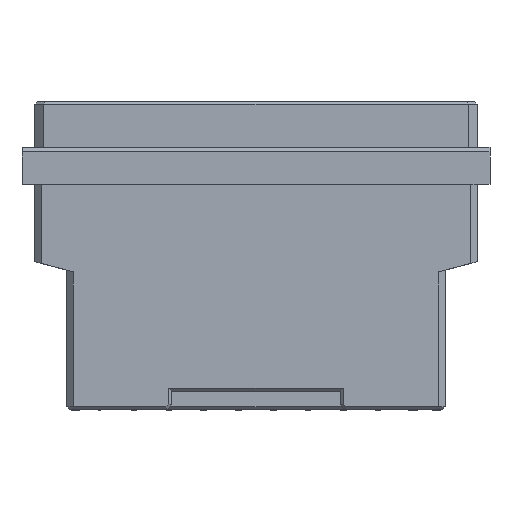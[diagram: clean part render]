
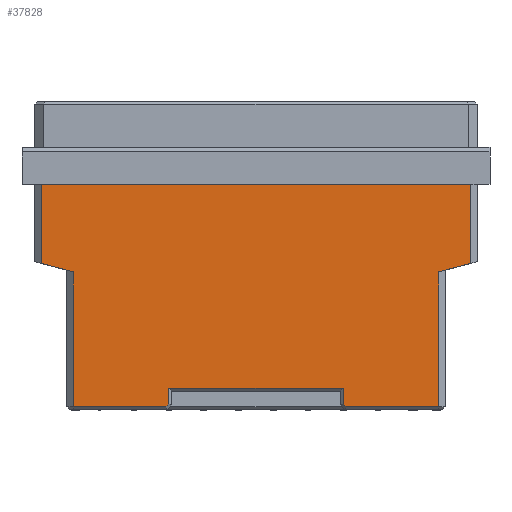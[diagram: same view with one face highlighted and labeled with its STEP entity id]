
A CAD part, front view. The second image highlights one B-rep face of the part: STEP entity #37828.
In plain terms, the highlighted planar face has unit normal (0, -1, 0).
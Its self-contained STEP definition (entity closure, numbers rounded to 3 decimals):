
#1139 = VECTOR ( 'NONE', #53690, 1000. ) ;
#1165 = VERTEX_POINT ( 'NONE', #4199 ) ;
#4199 = CARTESIAN_POINT ( 'NONE',  ( 19.945, -7.215, -33.3 ) ) ;
#4772 = LINE ( 'NONE', #33286, #5613 ) ;
#5613 = VECTOR ( 'NONE', #43406, 1000. ) ;
#6460 = EDGE_CURVE ( 'NONE', #44655, #52440, #4772, .T. ) ;
#6698 = EDGE_CURVE ( 'NONE', #45348, #30532, #43522, .T. ) ;
#7568 = EDGE_CURVE ( 'NONE', #62938, #44591, #33779, .T. ) ;
#7988 = ORIENTED_EDGE ( 'NONE', *, *, #58318, .T. ) ;
#8179 = DIRECTION ( 'NONE',  ( -1., 0., 0. ) ) ;
#8713 = CARTESIAN_POINT ( 'NONE',  ( 23.445, -7.215, -17.65 ) ) ;
#9667 = DIRECTION ( 'NONE',  ( 0., 0., 1. ) ) ;
#10167 = DIRECTION ( 'NONE',  ( 0., 0., 1. ) ) ;
#11330 = VERTEX_POINT ( 'NONE', #62435 ) ;
#11365 = VERTEX_POINT ( 'NONE', #27762 ) ;
#11713 = EDGE_CURVE ( 'NONE', #52440, #11330, #59073, .T. ) ;
#13066 = DIRECTION ( 'NONE',  ( -1., 0., 0. ) ) ;
#13091 = CARTESIAN_POINT ( 'NONE',  ( -9.849, -7.215, -33.3 ) ) ;
#14874 = CARTESIAN_POINT ( 'NONE',  ( -23.445, -7.215, -9. ) ) ;
#16931 = LINE ( 'NONE', #18360, #60681 ) ;
#18360 = CARTESIAN_POINT ( 'NONE',  ( -9.437, -7.215, -32.888 ) ) ;
#18975 = LINE ( 'NONE', #67046, #61150 ) ;
#20658 = ORIENTED_EDGE ( 'NONE', *, *, #7568, .T. ) ;
#21374 = ORIENTED_EDGE ( 'NONE', *, *, #24499, .T. ) ;
#21811 = CARTESIAN_POINT ( 'NONE',  ( -19.945, -7.215, -33.3 ) ) ;
#22996 = EDGE_CURVE ( 'NONE', #59443, #45348, #24813, .T. ) ;
#23960 = VECTOR ( 'NONE', #63871, 1000. ) ;
#24236 = CARTESIAN_POINT ( 'NONE',  ( 24.145, -7.215, -18.4 ) ) ;
#24499 = EDGE_CURVE ( 'NONE', #51147, #44655, #18975, .T. ) ;
#24510 = CARTESIAN_POINT ( 'NONE',  ( -19.945, -7.215, -18.588 ) ) ;
#24813 = LINE ( 'NONE', #27863, #23960 ) ;
#25126 = CARTESIAN_POINT ( 'NONE',  ( 24.145, -7.215, -33.3 ) ) ;
#26056 = LINE ( 'NONE', #28234, #29330 ) ;
#26849 = CARTESIAN_POINT ( 'NONE',  ( 9.525, -7.215, -31.3 ) ) ;
#27745 = VECTOR ( 'NONE', #46145, 1000. ) ;
#27762 = CARTESIAN_POINT ( 'NONE',  ( -9.525, -7.215, -32.976 ) ) ;
#27863 = CARTESIAN_POINT ( 'NONE',  ( -19.945, -7.215, -18.4 ) ) ;
#28234 = CARTESIAN_POINT ( 'NONE',  ( 24.145, -7.215, -9. ) ) ;
#28704 = ORIENTED_EDGE ( 'NONE', *, *, #61314, .T. ) ;
#29125 = CARTESIAN_POINT ( 'NONE',  ( 9.937, -7.215, -33.388 ) ) ;
#29330 = VECTOR ( 'NONE', #13066, 1000. ) ;
#29806 = DIRECTION ( 'NONE',  ( -0.966, 0., 0.259 ) ) ;
#29985 = EDGE_CURVE ( 'NONE', #30532, #11365, #16931, .T. ) ;
#30532 = VERTEX_POINT ( 'NONE', #13091 ) ;
#32006 = CARTESIAN_POINT ( 'NONE',  ( -23.445, -7.215, -17.65 ) ) ;
#32400 = LINE ( 'NONE', #45098, #34006 ) ;
#33079 = LINE ( 'NONE', #39963, #63102 ) ;
#33286 = CARTESIAN_POINT ( 'NONE',  ( 9.525, -7.215, -18.4 ) ) ;
#33779 = LINE ( 'NONE', #52035, #62986 ) ;
#34006 = VECTOR ( 'NONE', #40347, 1000. ) ;
#34282 = DIRECTION ( 'NONE',  ( 0.707, 0., -0.707 ) ) ;
#35974 = DIRECTION ( 'NONE',  ( 1., 0., 0. ) ) ;
#37443 = CARTESIAN_POINT ( 'NONE',  ( 23.445, -7.215, -9. ) ) ;
#37828 = ADVANCED_FACE ( 'NONE', ( #48918 ), #54578, .F. ) ;
#38084 = ORIENTED_EDGE ( 'NONE', *, *, #56590, .T. ) ;
#38488 = LINE ( 'NONE', #50131, #54354 ) ;
#38605 = DIRECTION ( 'NONE',  ( 0., 0., -1. ) ) ;
#39178 = EDGE_CURVE ( 'NONE', #1165, #60393, #66655, .T. ) ;
#39963 = CARTESIAN_POINT ( 'NONE',  ( -9.525, -7.215, -18.4 ) ) ;
#40186 = ORIENTED_EDGE ( 'NONE', *, *, #39178, .T. ) ;
#40347 = DIRECTION ( 'NONE',  ( 1., 0., 0. ) ) ;
#40671 = DIRECTION ( 'NONE',  ( 1., 0., 0. ) ) ;
#43076 = ORIENTED_EDGE ( 'NONE', *, *, #22996, .T. ) ;
#43338 = CARTESIAN_POINT ( 'NONE',  ( -23.445, -7.215, -18.4 ) ) ;
#43406 = DIRECTION ( 'NONE',  ( 0., 0., -1. ) ) ;
#43522 = LINE ( 'NONE', #25126, #45183 ) ;
#44591 = VERTEX_POINT ( 'NONE', #37443 ) ;
#44655 = VERTEX_POINT ( 'NONE', #26849 ) ;
#45098 = CARTESIAN_POINT ( 'NONE',  ( 24.145, -7.215, -33.3 ) ) ;
#45183 = VECTOR ( 'NONE', #40671, 1000. ) ;
#45348 = VERTEX_POINT ( 'NONE', #21811 ) ;
#45924 = CARTESIAN_POINT ( 'NONE',  ( 20.645, -7.215, -18.4 ) ) ;
#46145 = DIRECTION ( 'NONE',  ( -0.966, 0., -0.259 ) ) ;
#46150 = LINE ( 'NONE', #43338, #60012 ) ;
#46239 = ORIENTED_EDGE ( 'NONE', *, *, #11713, .T. ) ;
#46917 = EDGE_CURVE ( 'NONE', #62938, #60393, #64191, .T. ) ;
#47106 = EDGE_CURVE ( 'NONE', #44591, #58287, #26056, .T. ) ;
#48443 = CARTESIAN_POINT ( 'NONE',  ( 19.945, -7.215, -18.4 ) ) ;
#48918 = FACE_OUTER_BOUND ( 'NONE', #51268, .T. ) ;
#50131 = CARTESIAN_POINT ( 'NONE',  ( -20.645, -7.215, -18.4 ) ) ;
#50650 = VERTEX_POINT ( 'NONE', #32006 ) ;
#51147 = VERTEX_POINT ( 'NONE', #57750 ) ;
#51268 = EDGE_LOOP ( 'NONE', ( #43076, #67230, #56114, #7988, #21374, #62678, #46239, #28704, #40186, #59976, #20658, #57865, #38084, #51795 ) ) ;
#51795 = ORIENTED_EDGE ( 'NONE', *, *, #58970, .F. ) ;
#52035 = CARTESIAN_POINT ( 'NONE',  ( 23.445, -7.215, -18.4 ) ) ;
#52440 = VERTEX_POINT ( 'NONE', #58962 ) ;
#53690 = DIRECTION ( 'NONE',  ( 0., 0., 1. ) ) ;
#54354 = VECTOR ( 'NONE', #29806, 1000. ) ;
#54578 = PLANE ( 'NONE',  #66432 ) ;
#54680 = CARTESIAN_POINT ( 'NONE',  ( 19.945, -7.215, -18.588 ) ) ;
#56114 = ORIENTED_EDGE ( 'NONE', *, *, #29985, .T. ) ;
#56590 = EDGE_CURVE ( 'NONE', #58287, #50650, #46150, .T. ) ;
#57750 = CARTESIAN_POINT ( 'NONE',  ( -9.525, -7.215, -31.3 ) ) ;
#57865 = ORIENTED_EDGE ( 'NONE', *, *, #47106, .T. ) ;
#58287 = VERTEX_POINT ( 'NONE', #14874 ) ;
#58318 = EDGE_CURVE ( 'NONE', #11365, #51147, #33079, .T. ) ;
#58962 = CARTESIAN_POINT ( 'NONE',  ( 9.525, -7.215, -32.976 ) ) ;
#58970 = EDGE_CURVE ( 'NONE', #59443, #50650, #38488, .T. ) ;
#59073 = LINE ( 'NONE', #29125, #61556 ) ;
#59346 = DIRECTION ( 'NONE',  ( 0.707, 0., 0.707 ) ) ;
#59443 = VERTEX_POINT ( 'NONE', #24510 ) ;
#59976 = ORIENTED_EDGE ( 'NONE', *, *, #46917, .F. ) ;
#60012 = VECTOR ( 'NONE', #38605, 1000. ) ;
#60393 = VERTEX_POINT ( 'NONE', #54680 ) ;
#60681 = VECTOR ( 'NONE', #59346, 1000. ) ;
#61150 = VECTOR ( 'NONE', #35974, 1000. ) ;
#61314 = EDGE_CURVE ( 'NONE', #11330, #1165, #32400, .T. ) ;
#61556 = VECTOR ( 'NONE', #34282, 1000. ) ;
#62435 = CARTESIAN_POINT ( 'NONE',  ( 9.849, -7.215, -33.3 ) ) ;
#62678 = ORIENTED_EDGE ( 'NONE', *, *, #6460, .T. ) ;
#62938 = VERTEX_POINT ( 'NONE', #8713 ) ;
#62986 = VECTOR ( 'NONE', #10167, 1000. ) ;
#63102 = VECTOR ( 'NONE', #9667, 1000. ) ;
#63871 = DIRECTION ( 'NONE',  ( 0., 0., -1. ) ) ;
#64191 = LINE ( 'NONE', #45924, #27745 ) ;
#65447 = DIRECTION ( 'NONE',  ( 0., 1., 0. ) ) ;
#66432 = AXIS2_PLACEMENT_3D ( 'NONE', #24236, #65447, #8179 ) ;
#66655 = LINE ( 'NONE', #48443, #1139 ) ;
#67046 = CARTESIAN_POINT ( 'NONE',  ( 24.145, -7.215, -31.3 ) ) ;
#67230 = ORIENTED_EDGE ( 'NONE', *, *, #6698, .T. ) ;
